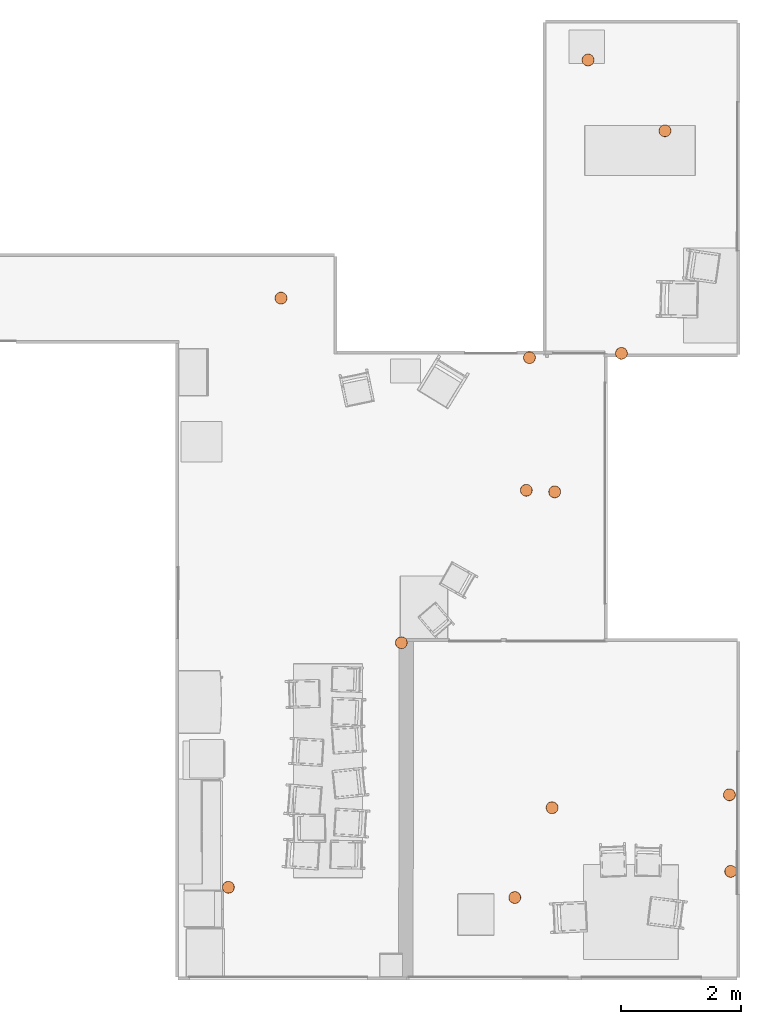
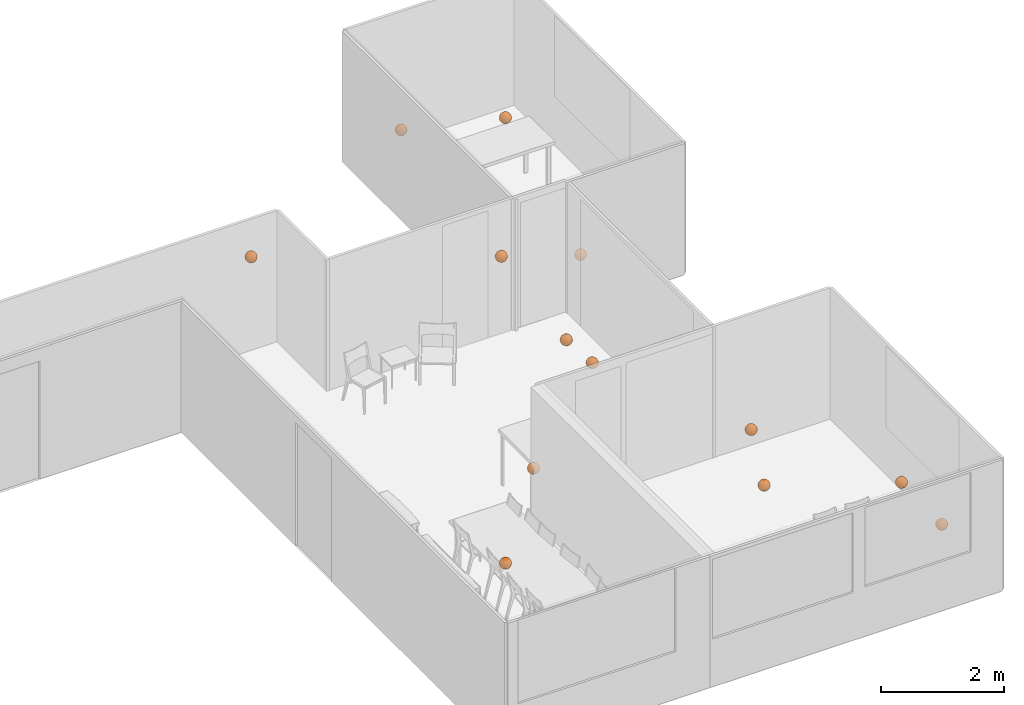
# One storey, part 12 of 12: 13 proxies.
"""IFC2X3 building model written with IfcOpenShell, lengths in metres."""

from ifc_helpers import new_model, entity, si_unit, direction, frame, origin_with_axes, place, context, subcontext, project, spatial, element, save


model = new_model("IFC2X3")

# Units and contexts
model_context = context("Model", 3, precision=1e-05, world=origin_with_axes(), true_north=direction((0.999, -0.05, 0.0)))
body_context = subcontext(model_context, "Body", "Model", "MODEL_VIEW")
ifc_project = project(units=[si_unit("LENGTHUNIT", "METRE"), si_unit("AREAUNIT", "SQUARE_METRE")], contexts=[model_context])

# Site, building, storey, space
site_placement = place(None, origin_with_axes())
site = spatial("IfcSite", under=ifc_project, at=site_placement, Name="Site", CompositionType="ELEMENT")
building_placement = place(site_placement, origin_with_axes())
building = spatial("IfcBuilding", under=site, at=building_placement, Name="Building", CompositionType="ELEMENT")
storey_placement = place(building_placement, frame((0.0, 0.0, 5.96046447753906e-08), z_axis=(0.0, 0.0, 1.0), x_axis=(1.0, 0.0, 0.0)))
storey = spatial("IfcBuildingStorey", under=building, at=storey_placement, Name="Story 0", CompositionType="ELEMENT", Elevation=5.96046447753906e-08)
space_1_placement = place(storey_placement, frame((4.44695107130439, 2.32165387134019, 0.0), z_axis=(0.0, 0.0, 1.0), x_axis=(-0.00965765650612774, 0.999953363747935, 0.0)))
space_1 = spatial("IfcSpace", under=storey, at=space_1_placement, Name="001", CompositionType="ELEMENT", InteriorOrExteriorSpace="INTERNAL")

# Proxies
for number, where, z_axis, x_axis in (
    (1, (0.00676326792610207, -0.278987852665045, 1.03332585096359), (0.0, 0.0, 1.0), (-0.00965765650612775, -0.999953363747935, 0.0)),
    (2, (3.69374386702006, -1.03778537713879, 1.25695985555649), (0.0, 0.0, 1.0), (-0.00965765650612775, -0.999953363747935, 0.0)),
    (3, (4.88273459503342, 0.228213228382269, 0.748789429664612), (0.0, 0.0, 1.0), (-0.00965765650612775, -0.999953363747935, 0.0)),
):
    element("IfcBuildingElementProxy", number, at=place(space_1_placement, frame(where, z_axis=z_axis, x_axis=x_axis)), inside=space_1, Name="PointOfInterest", ObjectType="PointOfInterest", context=body_context, shape_type="CSG", body=[
        entity("IfcSphere", entity("IfcAxis2Placement3D", entity("IfcCartesianPoint", [0.0, 0.0, 0.0]), entity("IfcDirection", [0.0, 0.0, 1.0]), entity("IfcDirection", [1.0, 0.0, 0.0])), 0.1),
    ])

# Space
space_2_placement = place(storey_placement, frame((1.15082618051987, -2.45226692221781, 0.0), z_axis=(0.0, 0.0, 1.0), x_axis=(-0.000420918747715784, -0.9999999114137, 0.0)))
space_2 = spatial("IfcSpace", under=storey, at=space_2_placement, Name="002", CompositionType="ELEMENT", InteriorOrExteriorSpace="INTERNAL")

# Proxies
for number, where, z_axis, x_axis in (
    (4, (3.81476892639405, 5.39003037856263, 0.260611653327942), (0.0, 0.0, 1.0), (-0.000420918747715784, 0.9999999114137, 0.0)),
    (5, (2.54350461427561, 5.36879911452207, 0.332609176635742), (0.0, 0.0, 1.0), (-0.000420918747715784, 0.9999999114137, 0.0)),
    (6, (4.25040252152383, 1.80707496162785, 2.55707830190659), (0.0, 0.0, 1.0), (-0.000420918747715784, 0.9999999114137, 0.0)),
    (7, (2.75850898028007, 2.42475678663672, 2.53981250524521), (0.0, 0.0, 1.0), (-0.000420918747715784, 0.9999999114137, 0.0)),
):
    element("IfcBuildingElementProxy", number, at=place(space_2_placement, frame(where, z_axis=z_axis, x_axis=x_axis)), inside=space_2, Name="PointOfInterest", ObjectType="PointOfInterest", context=body_context, shape_type="CSG", body=[
        entity("IfcSphere", entity("IfcAxis2Placement3D", entity("IfcCartesianPoint", [0.0, 0.0, 0.0]), entity("IfcDirection", [0.0, 0.0, 1.0]), entity("IfcDirection", [1.0, 0.0, 0.0])), 0.1),
    ])

# Space
space_3_placement = place(storey_placement, frame((-2.62701771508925, 2.54174579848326, 0.0), z_axis=(0.0, 0.0, 1.0), x_axis=(-0.999999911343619, 0.000421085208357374, 0.0)))
space_3 = spatial("IfcSpace", under=storey, at=space_3_placement, Name="003", CompositionType="ELEMENT", InteriorOrExteriorSpace="INTERNAL")

# Proxies
for number, where, z_axis, x_axis, name, object_type in (
    (8, (-6.24598560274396, 2.50779433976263, 0.669305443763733), (0.0, 0.0, 1.0), (-0.99999991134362, -0.000421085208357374, 0.0), "PointOfInterest", "PointOfInterest"),
    (9, (-1.70038751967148, -0.707533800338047, 2.412448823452), (0.0, 0.0, 1.0), (-0.99999991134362, -0.000421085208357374, 0.0), "PointOfInterest", "PointOfInterest"),
    (10, (-5.77474116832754, 2.48161266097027, 1.27497297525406), (0.0, 0.0, 1.0), (-0.99999991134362, -0.000421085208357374, 0.0), "PointOfInterest", "PointOfInterest"),
    (11, (-0.830749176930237, 9.0744225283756, 2.57176560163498), (0.0, 0.0, 1.0), (-0.99999991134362, -0.000421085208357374, 0.0), "PointOfInterest", "PointOfInterest"),
    (12, (-3.7013226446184, 5.01318676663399, 0.986137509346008), (0.0, 0.0, 1.0), (-0.99999991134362, -0.000421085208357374, 0.0), "PointOfInterest", "PointOfInterest"),
    (13, (-5.82588288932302, 0.279040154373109, 1.57756286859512), (0.0, 0.0, 1.0), (-0.99999991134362, -0.000421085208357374, 0.0), "QrCodeMarker", "QRCodeMarker"),
):
    element("IfcBuildingElementProxy", number, at=place(space_3_placement, frame(where, z_axis=z_axis, x_axis=x_axis)), inside=space_3, Name=name, ObjectType=object_type, context=body_context, shape_type="CSG", body=[
        entity("IfcSphere", entity("IfcAxis2Placement3D", entity("IfcCartesianPoint", [0.0, 0.0, 0.0]), entity("IfcDirection", [0.0, 0.0, 1.0]), entity("IfcDirection", [1.0, 0.0, 0.0])), 0.1),
    ])

save(model, "model.ifc")
